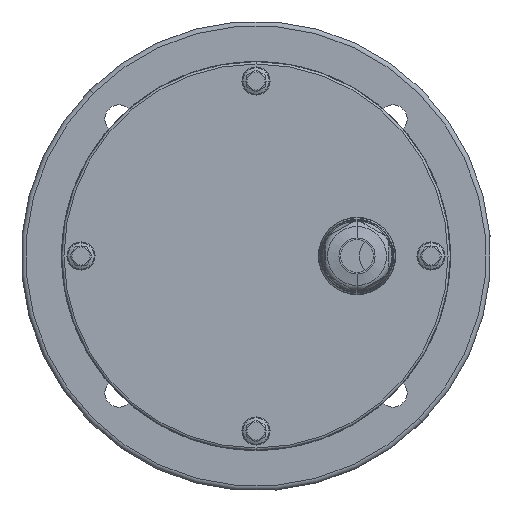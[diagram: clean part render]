
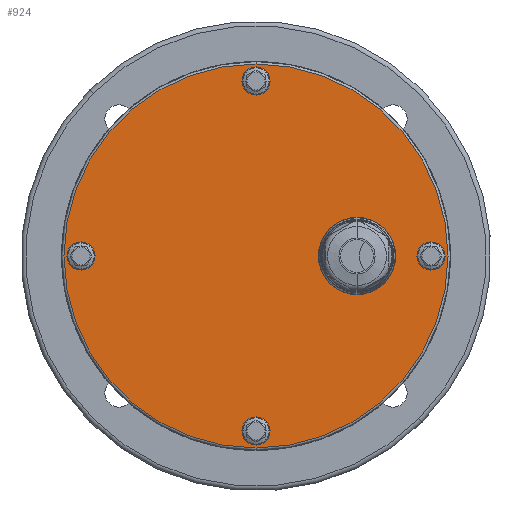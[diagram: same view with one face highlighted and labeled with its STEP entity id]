
A CAD part, left-side view. The second image highlights one B-rep face of the part: STEP entity #924.
In plain terms, the highlighted planar face has unit normal (-1, 0, 0).
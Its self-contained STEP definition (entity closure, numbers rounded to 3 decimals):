
#924=ADVANCED_FACE('',(#2132,#2133,#2134,#2135,#2136,#2137),#2138,.F.);
#2132=FACE_OUTER_BOUND('',#4621,.T.);
#2133=FACE_BOUND('',#4622,.T.);
#2134=FACE_BOUND('',#4623,.T.);
#2135=FACE_BOUND('',#4624,.T.);
#2136=FACE_BOUND('',#4625,.T.);
#2137=FACE_BOUND('',#4626,.T.);
#2138=PLANE('',#4627);
#4621=EDGE_LOOP('',(#8379,#8380));
#4622=EDGE_LOOP('',(#8381,#8382));
#4623=EDGE_LOOP('',(#8383,#8384));
#4624=EDGE_LOOP('',(#8385,#8386));
#4625=EDGE_LOOP('',(#8387,#8388));
#4626=EDGE_LOOP('',(#8389,#8390));
#4627=AXIS2_PLACEMENT_3D('',#8391,#8392,#8393);
#8379=ORIENTED_EDGE('',*,*,#12045,.T.);
#8380=ORIENTED_EDGE('',*,*,#12046,.T.);
#8381=ORIENTED_EDGE('',*,*,#12047,.F.);
#8382=ORIENTED_EDGE('',*,*,#12048,.F.);
#8383=ORIENTED_EDGE('',*,*,#12006,.F.);
#8384=ORIENTED_EDGE('',*,*,#12031,.F.);
#8385=ORIENTED_EDGE('',*,*,#12049,.F.);
#8386=ORIENTED_EDGE('',*,*,#12050,.F.);
#8387=ORIENTED_EDGE('',*,*,#12051,.F.);
#8388=ORIENTED_EDGE('',*,*,#12052,.F.);
#8389=ORIENTED_EDGE('',*,*,#12053,.T.);
#8390=ORIENTED_EDGE('',*,*,#12054,.T.);
#8391=CARTESIAN_POINT('',(-124.5,0.,0.0));
#8392=DIRECTION('',(1.0,0.,0.));
#8393=DIRECTION('',(0.,1.0,0.));
#12006=EDGE_CURVE('',#14349,#14347,#14351,.T.);
#12031=EDGE_CURVE('',#14347,#14349,#14397,.T.);
#12045=EDGE_CURVE('',#14421,#14422,#14423,.T.);
#12046=EDGE_CURVE('',#14422,#14421,#14424,.T.);
#12047=EDGE_CURVE('',#14425,#14426,#14427,.T.);
#12048=EDGE_CURVE('',#14426,#14425,#14428,.T.);
#12049=EDGE_CURVE('',#14429,#14430,#14431,.T.);
#12050=EDGE_CURVE('',#14430,#14429,#14432,.T.);
#12051=EDGE_CURVE('',#14433,#14434,#14435,.T.);
#12052=EDGE_CURVE('',#14434,#14433,#14436,.T.);
#12053=EDGE_CURVE('',#14437,#14438,#14439,.T.);
#12054=EDGE_CURVE('',#14438,#14437,#14440,.T.);
#14347=VERTEX_POINT('',#20247);
#14349=VERTEX_POINT('',#20250);
#14351=CIRCLE('',#20253,4.75);
#14397=CIRCLE('',#20301,4.75);
#14421=VERTEX_POINT('',#20329);
#14422=VERTEX_POINT('',#20330);
#14423=CIRCLE('',#20331,81.75);
#14424=CIRCLE('',#20332,81.75);
#14425=VERTEX_POINT('',#20333);
#14426=VERTEX_POINT('',#20334);
#14427=CIRCLE('',#20335,4.75);
#14428=CIRCLE('',#20336,4.75);
#14429=VERTEX_POINT('',#20337);
#14430=VERTEX_POINT('',#20338);
#14431=CIRCLE('',#20339,4.75);
#14432=CIRCLE('',#20340,4.75);
#14433=VERTEX_POINT('',#20341);
#14434=VERTEX_POINT('',#20342);
#14435=CIRCLE('',#20343,4.75);
#14436=CIRCLE('',#20344,4.75);
#14437=VERTEX_POINT('',#20345);
#14438=VERTEX_POINT('',#20346);
#14439=CIRCLE('',#20347,9.45);
#14440=CIRCLE('',#20348,9.45);
#20247=CARTESIAN_POINT('',(-124.5,-74.5,-4.75));
#20250=CARTESIAN_POINT('',(-124.5,-74.5,4.75));
#20253=AXIS2_PLACEMENT_3D('',#23859,#23860,#23861);
#20301=AXIS2_PLACEMENT_3D('',#23930,#23931,#23932);
#20329=CARTESIAN_POINT('',(-124.5,0.0,-81.75));
#20330=CARTESIAN_POINT('',(-124.5,0.,81.75));
#20331=AXIS2_PLACEMENT_3D('',#23964,#23965,#23966);
#20332=AXIS2_PLACEMENT_3D('',#23967,#23968,#23969);
#20333=CARTESIAN_POINT('',(-124.5,0.,-69.75));
#20334=CARTESIAN_POINT('',(-124.5,0.,-79.25));
#20335=AXIS2_PLACEMENT_3D('',#23970,#23971,#23972);
#20336=AXIS2_PLACEMENT_3D('',#23973,#23974,#23975);
#20337=CARTESIAN_POINT('',(-124.5,0.,79.25));
#20338=CARTESIAN_POINT('',(-124.5,0.,69.75));
#20339=AXIS2_PLACEMENT_3D('',#23976,#23977,#23978);
#20340=AXIS2_PLACEMENT_3D('',#23979,#23980,#23981);
#20341=CARTESIAN_POINT('',(-124.5,74.5,4.75));
#20342=CARTESIAN_POINT('',(-124.5,74.5,-4.75));
#20343=AXIS2_PLACEMENT_3D('',#23982,#23983,#23984);
#20344=AXIS2_PLACEMENT_3D('',#23985,#23986,#23987);
#20345=CARTESIAN_POINT('',(-124.5,-43.0,9.45));
#20346=CARTESIAN_POINT('',(-124.5,-43.0,-9.45));
#20347=AXIS2_PLACEMENT_3D('',#23988,#23989,#23990);
#20348=AXIS2_PLACEMENT_3D('',#23991,#23992,#23993);
#23859=CARTESIAN_POINT('',(-124.5,-74.5,0.0));
#23860=DIRECTION('',(-1.0,0.,-0.0));
#23861=DIRECTION('',(0.0,0.0,-1.0));
#23930=CARTESIAN_POINT('',(-124.5,-74.5,0.0));
#23931=DIRECTION('',(-1.0,0.,-0.0));
#23932=DIRECTION('',(0.0,0.0,-1.0));
#23964=CARTESIAN_POINT('',(-124.5,0.,0.0));
#23965=DIRECTION('',(-1.0,0.,0.));
#23966=DIRECTION('',(0.,0.,-1.0));
#23967=CARTESIAN_POINT('',(-124.5,0.,0.0));
#23968=DIRECTION('',(-1.0,0.,0.));
#23969=DIRECTION('',(0.,0.,-1.0));
#23970=CARTESIAN_POINT('',(-124.5,0.,-74.5));
#23971=DIRECTION('',(-1.0,0.,0.));
#23972=DIRECTION('',(0.,1.0,0.));
#23973=CARTESIAN_POINT('',(-124.5,0.,-74.5));
#23974=DIRECTION('',(-1.0,0.,0.));
#23975=DIRECTION('',(0.,1.0,0.));
#23976=CARTESIAN_POINT('',(-124.5,0.,74.5));
#23977=DIRECTION('',(-1.0,0.,0.));
#23978=DIRECTION('',(0.0,-1.0,0.));
#23979=CARTESIAN_POINT('',(-124.5,0.,74.5));
#23980=DIRECTION('',(-1.0,0.,0.));
#23981=DIRECTION('',(0.0,-1.0,0.));
#23982=CARTESIAN_POINT('',(-124.5,74.5,0.0));
#23983=DIRECTION('',(-1.0,0.,0.0));
#23984=DIRECTION('',(0.0,0.0,1.0));
#23985=CARTESIAN_POINT('',(-124.5,74.5,0.0));
#23986=DIRECTION('',(-1.0,0.,0.0));
#23987=DIRECTION('',(0.0,0.0,1.0));
#23988=CARTESIAN_POINT('',(-124.5,-43.0,0.0));
#23989=DIRECTION('',(1.0,0.,0.0));
#23990=DIRECTION('',(0.0,0.0,-1.0));
#23991=CARTESIAN_POINT('',(-124.5,-43.0,0.0));
#23992=DIRECTION('',(1.0,0.,0.0));
#23993=DIRECTION('',(0.0,0.0,-1.0));
